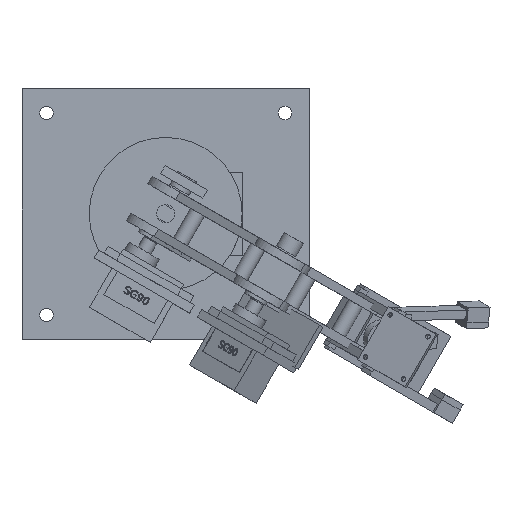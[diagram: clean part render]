
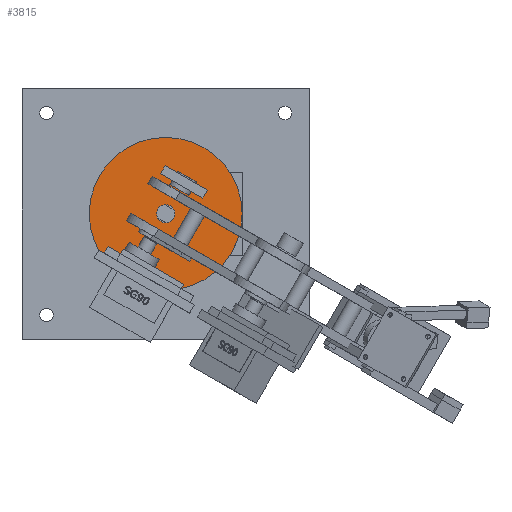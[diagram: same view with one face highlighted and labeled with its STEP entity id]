
A CAD part, top view. The second image highlights one B-rep face of the part: STEP entity #3815.
In plain terms, the highlighted planar face has unit normal (0, 0, 1).
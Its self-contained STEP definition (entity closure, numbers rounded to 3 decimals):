
#3695 = VERTEX_POINT('',#3696);
#3696 = CARTESIAN_POINT('',(21.651,-12.5,43.));
#3703 = CYLINDRICAL_SURFACE('',#3704,25.);
#3704 = AXIS2_PLACEMENT_3D('',#3705,#3706,#3707);
#3705 = CARTESIAN_POINT('',(0.,0.,40.));
#3706 = DIRECTION('',(-0.,0.,-1.));
#3707 = DIRECTION('',(0.866,-0.5,0.));
#3722 = EDGE_CURVE('',#3695,#3695,#3723,.T.);
#3723 = SURFACE_CURVE('',#3724,(#3729,#3736),.PCURVE_S1.);
#3724 = CIRCLE('',#3725,25.);
#3725 = AXIS2_PLACEMENT_3D('',#3726,#3727,#3728);
#3726 = CARTESIAN_POINT('',(0.,0.,43.));
#3727 = DIRECTION('',(-0.,0.,1.));
#3728 = DIRECTION('',(0.866,-0.5,0.));
#3729 = PCURVE('',#3703,#3730);
#3730 = DEFINITIONAL_REPRESENTATION('',(#3731),#3735);
#3731 = LINE('',#3732,#3733);
#3732 = CARTESIAN_POINT('',(-0.,-3.));
#3733 = VECTOR('',#3734,1.);
#3734 = DIRECTION('',(-1.,0.));
#3735 = ( GEOMETRIC_REPRESENTATION_CONTEXT(2) 
PARAMETRIC_REPRESENTATION_CONTEXT() REPRESENTATION_CONTEXT('2D SPACE',''
  ) );
#3736 = PCURVE('',#3737,#3742);
#3737 = PLANE('',#3738);
#3738 = AXIS2_PLACEMENT_3D('',#3739,#3740,#3741);
#3739 = CARTESIAN_POINT('',(0.,0.,43.));
#3740 = DIRECTION('',(0.,0.,1.));
#3741 = DIRECTION('',(0.866,-0.5,0.));
#3742 = DEFINITIONAL_REPRESENTATION('',(#3743),#3747);
#3743 = CIRCLE('',#3744,25.);
#3744 = AXIS2_PLACEMENT_2D('',#3745,#3746);
#3745 = CARTESIAN_POINT('',(0.,0.));
#3746 = DIRECTION('',(1.,0.));
#3747 = ( GEOMETRIC_REPRESENTATION_CONTEXT(2) 
PARAMETRIC_REPRESENTATION_CONTEXT() REPRESENTATION_CONTEXT('2D SPACE',''
  ) );
#3804 = CYLINDRICAL_SURFACE('',#3805,3.);
#3805 = AXIS2_PLACEMENT_3D('',#3806,#3807,#3808);
#3806 = CARTESIAN_POINT('',(0.,0.,39.));
#3807 = DIRECTION('',(-0.,0.,-1.));
#3808 = DIRECTION('',(0.866,-0.5,0.));
#3815 = ADVANCED_FACE('',(#3816,#3819),#3737,.T.);
#3816 = FACE_BOUND('',#3817,.T.);
#3817 = EDGE_LOOP('',(#3818));
#3818 = ORIENTED_EDGE('',*,*,#3722,.T.);
#3819 = FACE_BOUND('',#3820,.T.);
#3820 = EDGE_LOOP('',(#3821));
#3821 = ORIENTED_EDGE('',*,*,#3822,.T.);
#3822 = EDGE_CURVE('',#3823,#3823,#3825,.T.);
#3823 = VERTEX_POINT('',#3824);
#3824 = CARTESIAN_POINT('',(2.598,-1.5,43.));
#3825 = SURFACE_CURVE('',#3826,(#3831,#3842),.PCURVE_S1.);
#3826 = CIRCLE('',#3827,3.);
#3827 = AXIS2_PLACEMENT_3D('',#3828,#3829,#3830);
#3828 = CARTESIAN_POINT('',(0.,0.,43.));
#3829 = DIRECTION('',(0.,-0.,-1.));
#3830 = DIRECTION('',(0.866,-0.5,0.));
#3831 = PCURVE('',#3737,#3832);
#3832 = DEFINITIONAL_REPRESENTATION('',(#3833),#3841);
#3833 = ( BOUNDED_CURVE() B_SPLINE_CURVE(2,(#3834,#3835,#3836,#3837,
#3838,#3839,#3840),.UNSPECIFIED.,.T.,.F.) B_SPLINE_CURVE_WITH_KNOTS((1,2
    ,2,2,2,1),(-2.094,0.,2.094,4.189,
6.283,8.378),.UNSPECIFIED.) CURVE() 
GEOMETRIC_REPRESENTATION_ITEM() RATIONAL_B_SPLINE_CURVE((1.,0.5,1.,0.5,
1.,0.5,1.)) REPRESENTATION_ITEM('') );
#3834 = CARTESIAN_POINT('',(3.,0.));
#3835 = CARTESIAN_POINT('',(3.,-5.196));
#3836 = CARTESIAN_POINT('',(-1.5,-2.598));
#3837 = CARTESIAN_POINT('',(-6.,0.));
#3838 = CARTESIAN_POINT('',(-1.5,2.598));
#3839 = CARTESIAN_POINT('',(3.,5.196));
#3840 = CARTESIAN_POINT('',(3.,0.));
#3841 = ( GEOMETRIC_REPRESENTATION_CONTEXT(2) 
PARAMETRIC_REPRESENTATION_CONTEXT() REPRESENTATION_CONTEXT('2D SPACE',''
  ) );
#3842 = PCURVE('',#3804,#3843);
#3843 = DEFINITIONAL_REPRESENTATION('',(#3844),#3848);
#3844 = LINE('',#3845,#3846);
#3845 = CARTESIAN_POINT('',(-6.283,-4.));
#3846 = VECTOR('',#3847,1.);
#3847 = DIRECTION('',(1.,-0.));
#3848 = ( GEOMETRIC_REPRESENTATION_CONTEXT(2) 
PARAMETRIC_REPRESENTATION_CONTEXT() REPRESENTATION_CONTEXT('2D SPACE',''
  ) );
